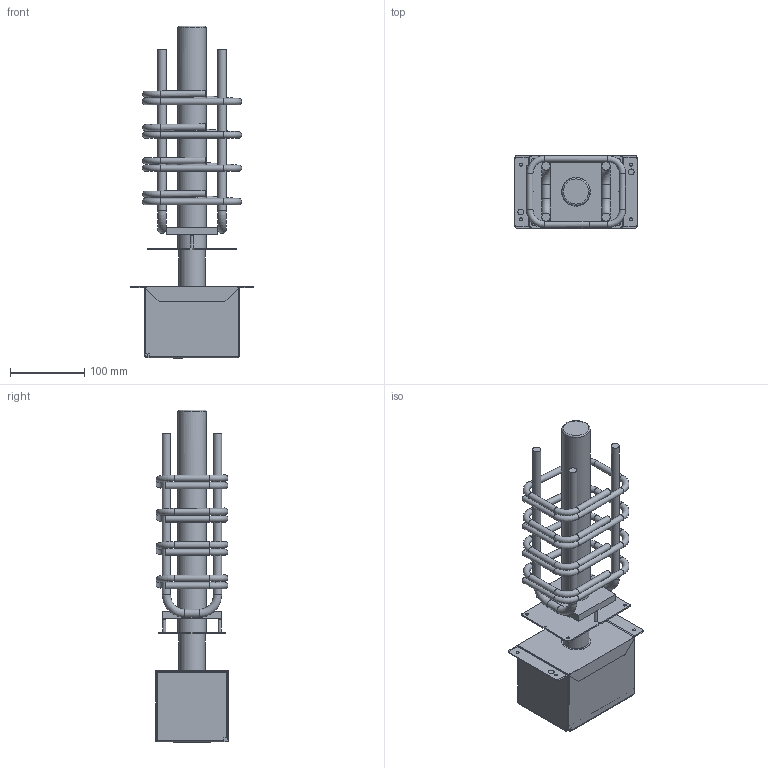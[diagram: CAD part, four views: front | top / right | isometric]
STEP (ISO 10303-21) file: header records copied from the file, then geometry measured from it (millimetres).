
FILE_DESCRIPTION(/* description */ (''),/* implementation_level */ '2;1');
FILE_NAME(/* name */ 'C:\Vault_Lokal\CAD Daten\05 Schallisolation\Fertigungszeichnungen_Standard\Sinton Q\Sinton Q2-J50_Vereinfachen_1.stp',/* time_stamp */ '2023-03-28T08:02:52+02:00',/* author */ ('Markus.niemann'),/* organization */ ('PohlCon GmbH'),/* preprocessor_version */ 'ST-DEVELOPER v18.1',/* originating_system */ 'Autodesk Inventor 2022',/* authorisation */ '');
FILE_SCHEMA (('AUTOMOTIVE_DESIGN { 1 0 10303 214 3 1 1 }'));
Length unit declared in the file: millimetre
Products named in the file (1): Sinton Q2-J50_Vereinfachen_1
Bounding box: 165 x 98.14 x 448.1 mm (x, y, z)
Volume: 1857915.9 mm3; surface area: 299145 mm2
Topology: 8 solids, 8 shells, 285 faces, 749 edges, 476 vertices
Faces by surface type: plane 159, cylinder 97, torus 25, sphere 4
Full cylindrical faces by diameter (mm): 3.9 x2, 4 x10, 8 x2, 8.5 x24, 11 x4, 35 x1, 35.2 x1, 36 x1, 38 x1, 38.5 x1, 38.6 x1
Entity records: 9347 total; most frequent: DIRECTION 1614, CARTESIAN_POINT 1537, ORIENTED_EDGE 1502, EDGE_CURVE 751, AXIS2_PLACEMENT_3D 581, VERTEX_POINT 480, LINE 452, VECTOR 452
